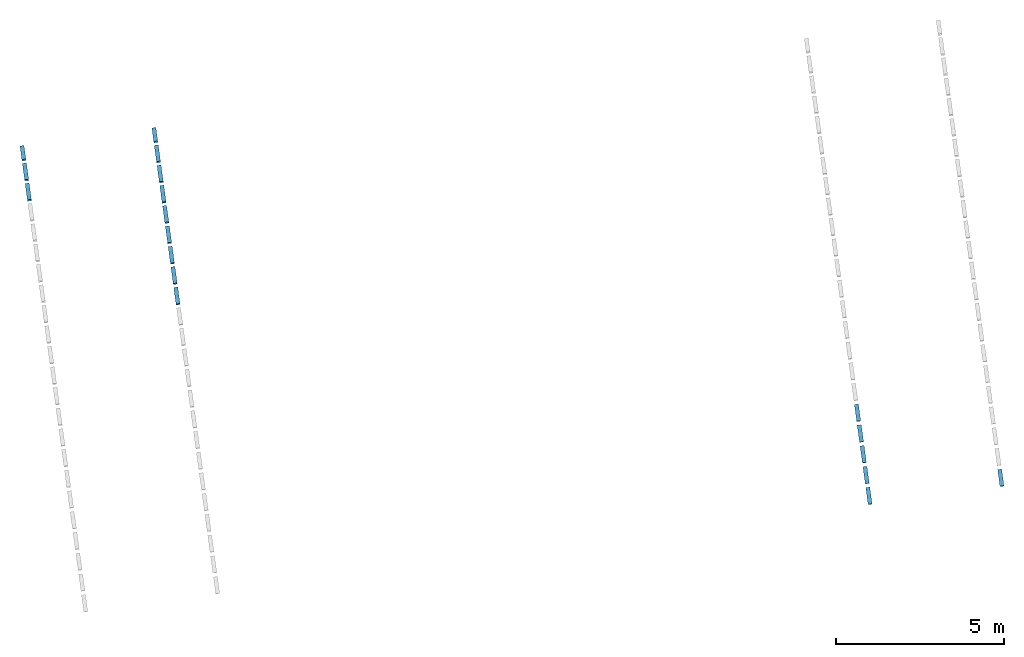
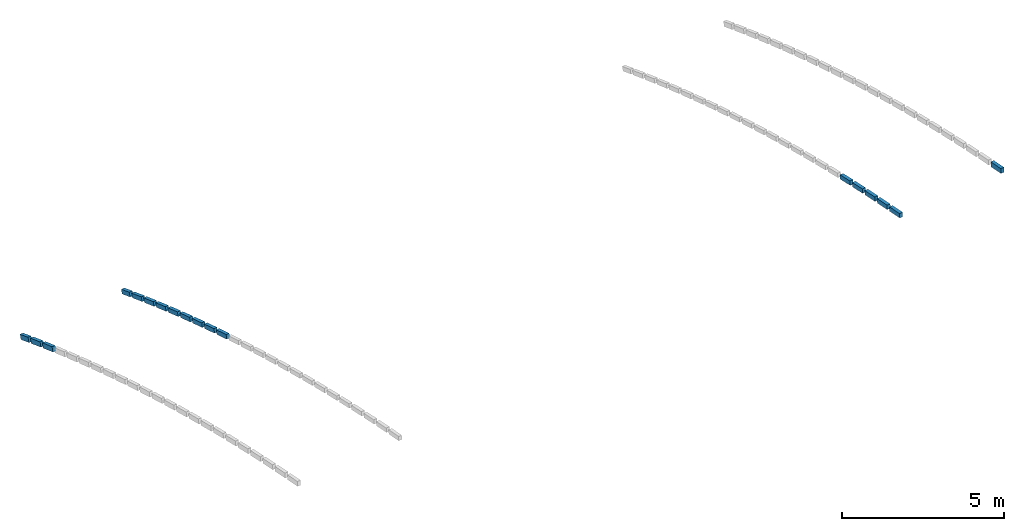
# One storey, part 3 of 6: 18 beams.
"""IFC2X3 building model written with IfcOpenShell, lengths in metres."""

from ifc_helpers import new_model, entity, si_unit, converted_unit, derived_unit, money_unit, direction, frame, frame_2d, origin_with_axes, place, context, subcontext, project, spatial, rectangle, extrude, boolean, faceted_brep, material, type_object, element, save


model = new_model("IFC2X3")

# Units and contexts
model_context = context("Model", 3, precision=1e-05, world=origin_with_axes(), true_north=direction((0.0, 1.0)))
body_context = subcontext(model_context, "Body", "Model", "MODEL_VIEW")
ifc_project = project(units=[si_unit("LENGTHUNIT", "METRE"), si_unit("AREAUNIT", "SQUARE_METRE"), si_unit("VOLUMEUNIT", "CUBIC_METRE"), converted_unit("PLANEANGLEUNIT", "DEGREE", entity("IfcPlaneAngleMeasure", 0.0174532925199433), si_unit("PLANEANGLEUNIT", "RADIAN"), dimensions=[0, 0, 0, 0, 0, 0, 0]), money_unit("EUR"), converted_unit("TIMEUNIT", "Year", entity("IfcTimeMeasure", 31557600.0), si_unit("TIMEUNIT", "SECOND"), dimensions=[0, 0, 1, 0, 0, 0, 0]), si_unit("MASSUNIT", "GRAM", prefix="KILO"), si_unit("THERMODYNAMICTEMPERATUREUNIT", "DEGREE_CELSIUS"), si_unit("LUMINOUSINTENSITYUNIT", "LUMEN"), si_unit("ENERGYUNIT", "JOULE", prefix="MEGA"), derived_unit("THERMALCONDUCTANCEUNIT", [(si_unit("POWERUNIT", "WATT"), 1), (si_unit("LENGTHUNIT", "METRE"), -1), (si_unit("THERMODYNAMICTEMPERATUREUNIT", "KELVIN"), -1)]), derived_unit("SPECIFICHEATCAPACITYUNIT", [(si_unit("ENERGYUNIT", "JOULE"), 1), (si_unit("MASSUNIT", "GRAM", prefix="KILO"), -1), (si_unit("THERMODYNAMICTEMPERATUREUNIT", "KELVIN"), -1)]), derived_unit("MASSDENSITYUNIT", [(si_unit("MASSUNIT", "GRAM", prefix="KILO"), 1), (si_unit("VOLUMEUNIT", "CUBIC_METRE"), -1)])], contexts=[model_context])

# Site, building, storey
site_placement = place(None, origin_with_axes())
site = spatial("IfcSite", under=ifc_project, at=site_placement, Name="Gelände", CompositionType="ELEMENT")
building_placement = place(site_placement, origin_with_axes())
building = spatial("IfcBuilding", under=site, at=building_placement, Name="Gebäude", CompositionType="ELEMENT")
storey_placement = place(building_placement, frame((0.0, 0.0, 9.9), z_axis=(0.0, 0.0, 1.0), x_axis=(1.0, 0.0, 0.0)))
storey = spatial("IfcBuildingStorey", under=building, at=storey_placement, Name="Dach", CompositionType="ELEMENT", Elevation=9.9)

# Beams
ifc_material = material(Name="Bauholz")
beam_type_1 = type_object("IfcBeamType", Name="Bauholz 120 x 160", PredefinedType="NOTDEFINED")
beam_1_placement = place(storey_placement, frame((89.07821815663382, -140.4611942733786, -0.6449889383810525), z_axis=(0.0, 0.0, 1.0), x_axis=(-0.9907490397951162, -0.1357068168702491, 0.0)))
element("IfcBeam", 1, at=beam_1_placement, inside=storey, type_object=beam_type_1, material=ifc_material, Name="Unterzug-031", context=body_context, shape_type="CSG", body=[
    boolean("DIFFERENCE", boolean("DIFFERENCE", extrude(rectangle(XDim=0.16, YDim=0.12, at=frame_2d((-0.08, 0.0), x_axis=(1.0, 0.0))), frame((0.0, 0.0, 0.0), z_axis=(0.0, 0.9809235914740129, 0.1943936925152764), x_axis=(0.0, -0.1943936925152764, 0.9809235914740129)), (0.0, 0.0, 1.0), 0.5052407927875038), faceted_brep([(-0.06000000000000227, 0.0, 0.0), (-0.06000000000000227, 0.03190226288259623, -0.1567893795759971), (-0.06000000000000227, 0.03110299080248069, -0.156947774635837), (0.06000000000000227, 0.03190226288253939, -0.1567893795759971), (0.06000000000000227, 0.0, 0.0), (0.06000000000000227, 0.03110299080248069, -0.156947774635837)], [[[0, 1, 2]], [[3, 1, 0, 4]], [[1, 3, 5, 2]], [[4, 0, 2, 5]], [[3, 4, 5]]])), faceted_brep([(0.05999999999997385, 0.5265737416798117, -0.05875828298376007), (-0.0600000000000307, 0.5265737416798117, -0.05875828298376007), (-0.06000000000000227, 0.5267056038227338, -0.0587321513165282), (0.06000000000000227, 0.5267056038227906, -0.0587321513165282), (-0.06000000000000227, 0.4956026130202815, 0.09821562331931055), (0.06000000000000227, 0.4956026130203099, 0.09821562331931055)], [[[0, 1, 2, 3]], [[4, 1, 0, 5]], [[1, 4, 2]], [[4, 5, 3, 2]], [[5, 0, 3]]])),
])
beam_2_placement = place(storey_placement, frame((89.16146479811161, -141.0689295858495, -0.5239403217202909), z_axis=(0.0, 0.0, 1.0), x_axis=(-0.9907490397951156, -0.1357068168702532, 0.0)))
element("IfcBeam", 2, at=beam_2_placement, inside=storey, type_object=beam_type_1, material=ifc_material, Name="Unterzug-031", context=body_context, shape_type="CSG", body=[
    boolean("DIFFERENCE", boolean("DIFFERENCE", extrude(rectangle(XDim=0.16, YDim=0.12, at=frame_2d((-0.08, 0.0), x_axis=(1.0, 0.0))), frame((0.0, 0.0, 0.0), z_axis=(0.0, 0.9827683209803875, 0.1848416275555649), x_axis=(0.0, -0.1848416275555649, 0.9827683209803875)), (0.0, 0.0, 1.0), 0.5052407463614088), faceted_brep([(-0.06000000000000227, 0.0, 0.0), (-0.06000000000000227, 0.03037543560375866, -0.1570923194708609), (-0.06000000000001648, 0.02957466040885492, -0.1572429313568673), (0.05999999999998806, 0.03037543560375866, -0.1570923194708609), (0.06000000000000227, 0.0, 0.0), (0.05999999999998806, 0.02957466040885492, -0.1572429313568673)], [[[0, 1, 2]], [[3, 1, 0, 4]], [[1, 3, 5, 2]], [[4, 0, 2, 5]], [[3, 4, 5]]])), faceted_brep([(0.06000000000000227, 0.5259771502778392, -0.06387825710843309), (-0.05999999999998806, 0.5259771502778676, -0.06387825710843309), (-0.06000000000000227, 0.5261092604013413, -0.06385340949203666), (0.05999999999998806, 0.5261092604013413, -0.06385340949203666), (-0.0600000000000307, 0.496534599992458, 0.09338952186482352), (0.06000000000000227, 0.4965345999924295, 0.09338952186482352)], [[[0, 1, 2, 3]], [[4, 1, 0, 5]], [[1, 4, 2]], [[4, 5, 3, 2]], [[5, 0, 3]]])),
])
beam_3_placement = place(storey_placement, frame((88.99514760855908, -139.8547445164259, -0.772435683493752), z_axis=(0.0, 0.0, 1.0), x_axis=(-0.9907490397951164, -0.1357068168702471, 0.0)))
element("IfcBeam", 3, at=beam_3_placement, inside=storey, type_object=beam_type_1, material=ifc_material, Name="Unterzug-031", context=body_context, shape_type="CSG", body=[
    boolean("DIFFERENCE", boolean("DIFFERENCE", extrude(rectangle(XDim=0.16, YDim=0.12, at=frame_2d((-0.08, 0.0), x_axis=(1.0, 0.0))), frame((0.0, 0.0, 0.0), z_axis=(0.0, 0.9788473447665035, 0.204591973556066), x_axis=(0.0, -0.204591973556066, 0.9788473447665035)), (0.0, 0.0, 1.0), 0.50524049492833), faceted_brep([(-0.06000000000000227, 0.0, 0.0), (-0.06000000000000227, 0.03353229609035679, -0.1564488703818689), (-0.06000000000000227, 0.03273471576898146, -0.1566155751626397), (0.06000000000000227, 0.03353229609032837, -0.1564488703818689), (0.06000000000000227, 0.0, 0.0), (0.06000000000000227, 0.03273471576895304, -0.1566155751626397)], [[[0, 1, 2]], [[3, 1, 0, 4]], [[1, 3, 5, 2]], [[4, 0, 2, 5]], [[3, 4, 5]]])), faceted_brep([(0.0600000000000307, 0.5271564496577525, -0.05327492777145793), (-0.05999999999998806, 0.5271564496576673, -0.05327492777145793), (-0.05999999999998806, 0.5272880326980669, -0.05324742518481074), (0.06000000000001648, 0.5272880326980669, -0.05324742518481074), (-0.06000000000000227, 0.4945533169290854, 0.1033681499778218), (0.06000000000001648, 0.494553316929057, 0.1033681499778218)], [[[0, 1, 2, 3]], [[4, 1, 0, 5]], [[1, 4, 2]], [[4, 5, 3, 2]], [[5, 0, 3]]])),
])
beam_4_placement = place(storey_placement, frame((88.91225356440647, -139.2495833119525, -0.9059747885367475), z_axis=(0.0, 0.0, 1.0), x_axis=(-0.9907490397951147, -0.1357068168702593, 0.0)))
element("IfcBeam", 4, at=beam_4_placement, inside=storey, type_object=beam_type_1, material=ifc_material, Name="Unterzug-031", context=body_context, shape_type="CSG", body=[
    boolean("DIFFERENCE", boolean("DIFFERENCE", extrude(rectangle(XDim=0.16, YDim=0.12, at=frame_2d((-0.08, 0.0), x_axis=(1.0, 0.0))), frame((0.0, 0.0, 0.0), z_axis=(0.0, 0.9767919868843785, 0.2141901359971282), x_axis=(0.0, -0.2141901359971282, 0.9767919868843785)), (0.0, 0.0, 1.0), 0.5052398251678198), faceted_brep([(-0.05999999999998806, 0.0, 0.0), (-0.05999999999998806, 0.03506632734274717, -0.1561121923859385), (-0.06000000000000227, 0.03427042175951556, -0.1562867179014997), (0.06000000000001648, 0.03506632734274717, -0.1561121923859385), (0.06000000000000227, 0.0, 0.0), (0.06000000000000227, 0.03427042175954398, -0.1562867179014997)], [[[0, 1, 2]], [[3, 1, 0, 4]], [[1, 3, 5, 2]], [[4, 0, 2, 5]], [[3, 4, 5]]])), faceted_brep([(0.06000000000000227, 0.5276533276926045, -0.04809812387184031), (-0.05999999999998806, 0.5276533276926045, -0.04809812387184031), (-0.05999999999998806, 0.5277846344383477, -0.04806933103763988), (0.06000000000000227, 0.5277846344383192, -0.04806933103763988), (-0.05999999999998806, 0.4935142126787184, 0.1082173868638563), (0.05999999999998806, 0.4935142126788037, 0.1082173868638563)], [[[0, 1, 2, 3]], [[4, 1, 0, 5]], [[1, 4, 2]], [[4, 5, 3, 2]], [[5, 0, 3]]])),
])
beam_5_placement = place(storey_placement, frame((88.82954721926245, -138.6457923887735, -1.045690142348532), z_axis=(0.0, 0.0, 1.0), x_axis=(-0.9907490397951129, -0.1357068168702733, 0.0)))
element("IfcBeam", 5, at=beam_5_placement, inside=storey, type_object=beam_type_1, material=ifc_material, Name="Unterzug-031", context=body_context, shape_type="CSG", body=[
    boolean("DIFFERENCE", boolean("DIFFERENCE", extrude(rectangle(XDim=0.16, YDim=0.12, at=frame_2d((-0.08, 0.0), x_axis=(1.0, 0.0))), frame((0.0, 0.0, 0.0), z_axis=(0.0, 0.974598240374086, 0.2239604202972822), x_axis=(0.0, -0.2239604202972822, 0.974598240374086)), (0.0, 0.0, 1.0), 0.5052396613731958), faceted_brep([(-0.06000000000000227, 0.0, 0.0), (-0.05999999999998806, 0.03662778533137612, -0.1557532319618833), (-0.06000000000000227, 0.03583366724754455, -0.1559357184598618), (0.06000000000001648, 0.03662778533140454, -0.1557532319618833), (0.06000000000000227, 0.0, 0.0), (0.06000000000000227, 0.03583366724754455, -0.1559357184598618)], [[[0, 1, 2]], [[3, 1, 0, 4]], [[1, 3, 5, 2]], [[4, 0, 2, 5]], [[3, 4, 5]]])), faceted_brep([(0.06000000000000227, 0.528108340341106, -0.04281213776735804), (-0.06000000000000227, 0.5281083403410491, -0.04281213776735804), (-0.05999999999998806, 0.5282393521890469, -0.04278203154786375), (0.06000000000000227, 0.5282393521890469, -0.04278203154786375), (-0.06000000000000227, 0.4924056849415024, 0.1131536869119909), (0.06000000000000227, 0.4924056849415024, 0.1131536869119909)], [[[0, 1, 2, 3]], [[4, 1, 0, 5]], [[1, 4, 2]], [[4, 5, 3, 2]], [[5, 0, 3]]])),
])
beam_6_placement = place(storey_placement, frame((88.51197655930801, -136.3273937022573, -1.643677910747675), z_axis=(0.0, 0.0, 1.0), x_axis=(-0.9907490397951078, -0.1357068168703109, 0.0)))
element("IfcBeam", 6, at=beam_6_placement, inside=storey, type_object=beam_type_1, material=ifc_material, Name="Unterzug-031", context=body_context, shape_type="CSG", body=[
    boolean("DIFFERENCE", boolean("DIFFERENCE", extrude(rectangle(XDim=0.16, YDim=0.12, at=frame_2d((-0.08, 0.0), x_axis=(1.0, 0.0))), frame((0.0, 0.0, 0.0), z_axis=(0.0, 0.9647542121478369, 0.2631526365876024), x_axis=(0.0, -0.2631526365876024, 0.9647542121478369)), (0.0, 0.0, 1.0), 0.4197847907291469), faceted_brep([(-0.05999999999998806, 0.0, 0.0), (-0.05999999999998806, 0.04345150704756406, -0.153993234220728), (-0.06000000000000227, 0.0421044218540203, -0.1543606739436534), (0.06000000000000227, 0.04345150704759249, -0.153993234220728), (0.06000000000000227, 0.0, 0.0), (0.06000000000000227, 0.0421044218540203, -0.1543606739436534)], [[[0, 1, 2]], [[3, 1, 0, 4]], [[1, 3, 5, 2]], [[4, 0, 2, 5]], [[3, 4, 5]]])), faceted_brep([(0.06000000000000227, 0.4470742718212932, -0.04389846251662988), (-0.06000000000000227, 0.4470742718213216, -0.04389846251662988), (-0.06000000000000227, 0.4470935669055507, -0.0438931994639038), (0.06000000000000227, 0.4470935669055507, -0.0438931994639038), (-0.05999999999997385, 0.4048883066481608, 0.1104399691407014), (0.06000000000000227, 0.4048883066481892, 0.1104399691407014), (-0.06000000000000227, 0.4049891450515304, 0.1104674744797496), (0.06000000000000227, 0.4049891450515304, 0.1104674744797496)], [[[0, 1, 2, 3]], [[4, 1, 0, 5]], [[1, 4, 6, 2]], [[7, 3, 2, 6]], [[5, 0, 3, 7]], [[4, 5, 7, 6]]])),
])
beam_7_placement = place(storey_placement, frame((88.66473150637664, -137.4425687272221, -1.343591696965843), z_axis=(0.0, 0.0, 1.0), x_axis=(-0.9907490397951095, -0.1357068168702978, 0.0)))
element("IfcBeam", 7, at=beam_7_placement, inside=storey, type_object=beam_type_1, material=ifc_material, Name="Unterzug-031", context=body_context, shape_type="CSG", body=[
    boolean("DIFFERENCE", boolean("DIFFERENCE", extrude(rectangle(XDim=0.16, YDim=0.12, at=frame_2d((-0.08, 0.0), x_axis=(1.0, 0.0))), frame((0.0, 0.0, 0.0), z_axis=(0.0, 0.9699179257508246, 0.2434321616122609), x_axis=(0.0, -0.2434321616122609, 0.9699179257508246)), (0.0, 0.0, 1.0), 0.5053439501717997), faceted_brep([(-0.05999999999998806, 0.0, 0.0), (-0.06000000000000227, 0.04030344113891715, -0.1548469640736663), (-0.06000000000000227, 0.0389491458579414, -0.1551868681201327), (0.06000000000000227, 0.04030344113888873, -0.1548469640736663), (0.06000000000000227, 0.0, 0.0), (0.06000000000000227, 0.03894914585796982, -0.1551868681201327)], [[[0, 1, 2]], [[3, 1, 0, 4]], [[1, 3, 5, 2]], [[4, 0, 2, 5]], [[3, 4, 5]]])), faceted_brep([(0.06000000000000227, 0.5290719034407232, -0.03217476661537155), (-0.06000000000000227, 0.5290719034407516, -0.03217476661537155), (-0.05999999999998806, 0.5290913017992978, -0.03216989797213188), (0.06000000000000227, 0.5290913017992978, -0.03216989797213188), (-0.06000000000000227, 0.4900407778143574, 0.1229915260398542), (0.06000000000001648, 0.490040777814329, 0.1229915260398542), (-0.05999999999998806, 0.4901421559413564, 0.1230169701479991), (0.06000000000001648, 0.4901421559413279, 0.1230169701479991)], [[[0, 1, 2, 3]], [[4, 1, 0, 5]], [[1, 4, 6, 2]], [[7, 3, 2, 6]], [[5, 0, 3, 7]], [[4, 5, 7, 6]]])),
])
beam_8_placement = place(storey_placement, frame((88.74703704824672, -138.0434336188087, -1.191567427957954), z_axis=(0.0, 0.0, 1.0), x_axis=(-0.9907490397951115, -0.1357068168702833, 0.0)))
element("IfcBeam", 8, at=beam_8_placement, inside=storey, type_object=beam_type_1, material=ifc_material, Name="Unterzug-031", context=body_context, shape_type="CSG", body=[
    boolean("DIFFERENCE", boolean("DIFFERENCE", extrude(rectangle(XDim=0.16, YDim=0.12, at=frame_2d((-0.08, 0.0), x_axis=(1.0, 0.0))), frame((0.0, 0.0, 0.0), z_axis=(0.0, 0.9723068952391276, 0.2337077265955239), x_axis=(0.0, -0.2337077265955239, 0.9723068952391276)), (0.0, 0.0, 1.0), 0.5052395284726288), faceted_brep([(-0.06000000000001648, 0.0, 0.0), (-0.06000000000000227, 0.03863559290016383, -0.1552704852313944), (-0.06000000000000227, 0.03739323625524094, -0.1555691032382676), (0.06000000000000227, 0.03863559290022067, -0.1552704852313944), (0.06000000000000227, 0.0, 0.0), (0.06000000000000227, 0.03739323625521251, -0.1555691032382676)], [[[0, 1, 2]], [[3, 1, 0, 4]], [[1, 3, 5, 2]], [[4, 0, 2, 5]], [[3, 4, 5]]])), faceted_brep([(0.05999999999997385, 0.5285104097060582, -0.03752213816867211), (-0.06000000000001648, 0.5285104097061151, -0.03752213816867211), (-0.06000000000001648, 0.528641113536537, -0.03749072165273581), (0.05999999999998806, 0.528641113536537, -0.03749072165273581), (-0.0600000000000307, 0.4912478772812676, 0.11807838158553), (0.05999999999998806, 0.4912478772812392, 0.11807838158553)], [[[0, 1, 2, 3]], [[4, 1, 0, 5]], [[1, 4, 2]], [[4, 5, 3, 2]], [[5, 0, 3]]])),
])
beam_9_placement = place(storey_placement, frame((88.58263902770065, -136.8432592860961, -1.501747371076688), z_axis=(0.0, 0.0, 1.0), x_axis=(-0.9907490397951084, -0.1357068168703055, 0.0)))
element("IfcBeam", 9, at=beam_9_placement, inside=storey, type_object=beam_type_1, material=ifc_material, Name="Unterzug-031", context=body_context, shape_type="CSG", body=[
    boolean("DIFFERENCE", boolean("DIFFERENCE", extrude(rectangle(XDim=0.16, YDim=0.12, at=frame_2d((-0.08, 0.0), x_axis=(1.0, 0.0))), frame((0.0, 0.0, 0.0), z_axis=(0.0, 0.9674364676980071, 0.2531139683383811), x_axis=(0.0, -0.2531139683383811, 0.9674364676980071)), (0.0, 0.0, 1.0), 0.5053438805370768), faceted_brep([(-0.06000000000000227, 0.0, 0.0), (-0.0600000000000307, 0.04184906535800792, -0.1544364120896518), (-0.06000000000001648, 0.04049823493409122, -0.1547898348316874), (0.05999999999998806, 0.04184906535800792, -0.1544364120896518), (0.05999999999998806, 0.0, 0.0), (0.05999999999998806, 0.04049823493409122, -0.1547898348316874)], [[[0, 1, 2]], [[3, 1, 0, 4]], [[1, 3, 5, 2]], [[4, 0, 2, 5]], [[3, 4, 5]]])), faceted_brep([(0.05999999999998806, 0.5293669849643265, -0.02688530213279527), (-0.06000000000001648, 0.5293669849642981, -0.02688530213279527), (-0.05999999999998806, 0.5293863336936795, -0.02688023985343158), (0.05999999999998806, 0.5293863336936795, -0.02688023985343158), (-0.06000000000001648, 0.488786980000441, 0.1278831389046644), (0.05999999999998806, 0.4887869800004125, 0.1278831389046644), (-0.06000000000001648, 0.4888880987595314, 0.1279095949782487), (0.05999999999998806, 0.4888880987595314, 0.1279095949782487)], [[[0, 1, 2, 3]], [[4, 1, 0, 5]], [[1, 4, 6, 2]], [[7, 3, 2, 6]], [[5, 0, 3, 7]], [[4, 5, 7, 6]]])),
])
beam_10_placement = place(storey_placement, frame((109.3917689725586, -144.5447945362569, 0.3440173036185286), z_axis=(0.0, 0.0, 1.0), x_axis=(-0.9907490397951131, -0.1357068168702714, 0.0)))
element("IfcBeam", 10, at=beam_10_placement, inside=storey, type_object=beam_type_1, material=ifc_material, Name="Unterzug-031", context=body_context, shape_type="CSG", body=[
    boolean("DIFFERENCE", boolean("DIFFERENCE", extrude(rectangle(XDim=0.16, YDim=0.12, at=frame_2d((-0.08, 0.0), x_axis=(1.0, 0.0))), frame((0.0, 0.0, 0.0), z_axis=(0.0, 0.9964393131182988, 0.08431307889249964), x_axis=(0.0, -0.08431307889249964, 0.9964393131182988)), (0.0, 0.0, 1.0), 0.5052448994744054), faceted_brep([(-0.05999999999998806, 0.0, 0.0), (-0.06000000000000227, 0.01392273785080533, -0.1593936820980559), (-0.05999999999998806, 0.01349009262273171, -0.1594302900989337), (0.06000000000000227, 0.0139227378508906, -0.1593936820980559), (0.06000000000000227, 0.0, 0.0), (0.06000000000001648, 0.01349009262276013, -0.1594302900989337)], [[[0, 1, 2]], [[3, 1, 0, 4]], [[1, 3, 5, 2]], [[4, 0, 2, 5]], [[3, 4, 5]]])), faceted_brep([(0.06000000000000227, 0.516802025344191, -0.1168428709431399), (-0.05999999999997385, 0.5168020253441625, -0.1168428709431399), (-0.05999999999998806, 0.5169359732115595, -0.1168315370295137), (0.06000000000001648, 0.5169359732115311, -0.1168315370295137), (-0.05999999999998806, 0.5034458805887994, 0.04259875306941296), (0.0600000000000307, 0.5034458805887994, 0.04259875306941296)], [[[0, 1, 2, 3]], [[4, 1, 0, 5]], [[1, 4, 2]], [[4, 5, 3, 2]], [[5, 0, 3]]])),
])
beam_11_placement = place(storey_placement, frame((109.5609485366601, -145.7798761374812, 0.4421023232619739), z_axis=(0.0, 0.0, 1.0), x_axis=(-0.9907490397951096, -0.1357068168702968, 0.0)))
element("IfcBeam", 11, at=beam_11_placement, inside=storey, type_object=beam_type_1, material=ifc_material, Name="Unterzug-031", context=body_context, shape_type="CSG", body=[
    boolean("DIFFERENCE", boolean("DIFFERENCE", extrude(rectangle(XDim=0.16, YDim=0.12, at=frame_2d((-0.08, 0.0), x_axis=(1.0, 0.0))), frame((0.0, 0.0, 0.0), z_axis=(0.0, 0.9979156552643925, 0.06453173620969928), x_axis=(0.0, -0.06453173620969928, 0.9979156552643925)), (0.0, 0.0, 1.0), 0.5052416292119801), faceted_brep([(-0.05999999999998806, 0.0, 0.0), (-0.05999999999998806, 0.01075836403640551, -0.1596384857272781), (-0.05999999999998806, 0.01032507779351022, -0.1596665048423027), (0.05999999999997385, 0.01075836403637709, -0.1596384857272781), (0.05999999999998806, 0.0, 0.0), (0.06000000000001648, 0.01032507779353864, -0.1596665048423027)], [[[0, 1, 2]], [[3, 1, 0, 4]], [[1, 3, 5, 2]], [[4, 0, 2, 5]], [[3, 4, 5]]])), faceted_brep([(0.06000000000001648, 0.5143794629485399, -0.1270710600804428), (-0.06000000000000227, 0.5143794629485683, -0.1270710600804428), (-0.06000000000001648, 0.5145136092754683, -0.1270623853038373), (0.05999999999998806, 0.5145136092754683, -0.1270623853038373), (-0.06000000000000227, 0.5041885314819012, 0.03260411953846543), (0.05999999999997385, 0.5041885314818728, 0.03260411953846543)], [[[0, 1, 2, 3]], [[4, 1, 0, 5]], [[1, 4, 2]], [[4, 5, 3, 2]], [[5, 0, 3]]])),
])
beam_12_placement = place(storey_placement, frame((109.6456292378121, -146.3980806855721, 0.4818232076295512), z_axis=(0.0, 0.0, 1.0), x_axis=(-0.9907490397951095, -0.1357068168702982, 0.0)))
element("IfcBeam", 12, at=beam_12_placement, inside=storey, type_object=beam_type_1, material=ifc_material, Name="Unterzug-031", context=body_context, shape_type="CSG", body=[
    boolean("DIFFERENCE", boolean("DIFFERENCE", extrude(rectangle(XDim=0.16, YDim=0.12, at=frame_2d((-0.08, 0.0), x_axis=(1.0, 0.0))), frame((0.0, 0.0, 0.0), z_axis=(0.0, 0.9985369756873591, 0.05407317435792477), x_axis=(0.0, -0.05407317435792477, 0.9985369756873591)), (0.0, 0.0, 1.0), 0.5052407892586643), faceted_brep([(-0.05999999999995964, 0.0, 0.0), (-0.05999999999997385, 0.009085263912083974, -0.1597424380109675), (-0.05999999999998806, 0.008651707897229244, -0.1597659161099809), (0.06000000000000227, 0.00908526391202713, -0.1597424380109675), (0.06000000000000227, 0.0, 0.0), (0.06000000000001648, 0.008651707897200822, -0.1597659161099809)], [[[0, 1, 2]], [[3, 1, 0, 4]], [[1, 3, 5, 2]], [[4, 0, 2, 5]], [[3, 4, 5]]])), faceted_brep([(0.0600000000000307, 0.5130190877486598, -0.1324532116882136), (-0.05999999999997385, 0.5130190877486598, -0.1324532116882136), (-0.05999999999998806, 0.513153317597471, -0.1324459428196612), (0.06000000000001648, 0.5131533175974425, -0.1324459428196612), (-0.05999999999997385, 0.5045016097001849, 0.02731997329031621), (0.0600000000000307, 0.5045016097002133, 0.02731997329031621)], [[[0, 1, 2, 3]], [[4, 1, 0, 5]], [[1, 4, 2]], [[4, 5, 3, 2]], [[5, 0, 3]]])),
])
beam_13_placement = place(storey_placement, frame((109.7303616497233, -147.0166627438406, 0.515005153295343), z_axis=(0.0, 0.0, 1.0), x_axis=(-0.9907490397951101, -0.1357068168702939, 0.0)))
element("IfcBeam", 13, at=beam_13_placement, inside=storey, type_object=beam_type_1, material=ifc_material, Name="Unterzug-031", context=body_context, shape_type="CSG", body=[
    boolean("DIFFERENCE", boolean("DIFFERENCE", extrude(rectangle(XDim=0.16, YDim=0.12, at=frame_2d((-0.08, 0.0), x_axis=(1.0, 0.0))), frame((0.0, 0.0, 0.0), z_axis=(0.0, 0.9990217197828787, 0.04422220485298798), x_axis=(0.0, -0.04422220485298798, 0.9990217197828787)), (0.0, 0.0, 1.0), 0.5052408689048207), faceted_brep([(-0.06000000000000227, 0.0, 0.0), (-0.05999999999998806, 0.007509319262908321, -0.159824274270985), (-0.05999999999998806, 0.007075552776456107, -0.1598434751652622), (0.06000000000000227, 0.007509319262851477, -0.159824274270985), (0.06000000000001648, 0.0, 0.0), (0.06000000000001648, 0.007075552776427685, -0.1598434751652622)], [[[0, 1, 2]], [[3, 1, 0, 4]], [[1, 3, 5, 2]], [[4, 0, 2, 5]], [[3, 4, 5]]])), faceted_brep([(0.06000000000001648, 0.5116878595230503, -0.1375065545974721), (-0.06000000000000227, 0.5116878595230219, -0.1375065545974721), (-0.05999999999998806, 0.5118221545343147, -0.1375006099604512), (0.06000000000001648, 0.5118221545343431, -0.1375006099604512), (-0.05999999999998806, 0.5047466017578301, 0.02234286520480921), (0.06000000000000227, 0.5047466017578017, 0.02234286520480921)], [[[0, 1, 2, 3]], [[4, 1, 0, 5]], [[1, 4, 2]], [[4, 5, 3, 2]], [[5, 0, 3]]])),
])
beam_14_placement = place(storey_placement, frame((109.4763248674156, -145.1620879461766, 0.3962608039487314), z_axis=(0.0, 0.0, 1.0), x_axis=(-0.9907490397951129, -0.1357068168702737, 0.0)))
element("IfcBeam", 14, at=beam_14_placement, inside=storey, type_object=beam_type_1, material=ifc_material, Name="Unterzug-031", context=body_context, shape_type="CSG", body=[
    boolean("DIFFERENCE", boolean("DIFFERENCE", extrude(rectangle(XDim=0.16, YDim=0.12, at=frame_2d((-0.08, 0.0), x_axis=(1.0, 0.0))), frame((0.0, 0.0, 0.0), z_axis=(0.0, 0.9972306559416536, 0.07437081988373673), x_axis=(0.0, -0.07437081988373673, 0.9972306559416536)), (0.0, 0.0, 1.0), 0.5052413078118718), faceted_brep([(-0.06000000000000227, 0.0, 0.0), (-0.06000000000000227, 0.01233232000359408, -0.1595246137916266), (-0.05999999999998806, 0.01189933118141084, -0.1595569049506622), (0.05999999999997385, 0.0123323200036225, -0.1595246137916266), (0.06000000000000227, 0.0, 0.0), (0.06000000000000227, 0.01189933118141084, -0.1595569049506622)], [[[0, 1, 2]], [[3, 1, 0, 4]], [[1, 3, 5, 2]], [[4, 0, 2, 5]], [[3, 4, 5]]])), faceted_brep([(0.06000000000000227, 0.5156073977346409, -0.1219916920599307), (-0.06000000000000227, 0.5156073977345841, -0.1219916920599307), (-0.05999999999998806, 0.5157414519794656, -0.1219816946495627), (0.06000000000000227, 0.5157414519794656, -0.1219816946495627), (-0.06000000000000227, 0.5038421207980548, 0.03757521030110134), (0.06000000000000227, 0.5038421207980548, 0.03757521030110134)], [[[0, 1, 2, 3]], [[4, 1, 0, 5]], [[1, 4, 2]], [[4, 5, 3, 2]], [[5, 0, 3]]])),
])
beam_type_2 = type_object("IfcBeamType", Name="Bauholz 120 x 180", PredefinedType="NOTDEFINED")
beam_15_placement = place(storey_placement, frame((84.60985330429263, -137.4351193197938, -1.675438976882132), z_axis=(0.0, 0.0, 1.0), x_axis=(-0.9907490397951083, -0.135706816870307, 0.0)))
element("IfcBeam", 15, at=beam_15_placement, inside=storey, type_object=beam_type_2, material=ifc_material, Name="Unterzug-031", context=body_context, shape_type="CSG", body=[
    boolean("DIFFERENCE", boolean("DIFFERENCE", extrude(rectangle(XDim=0.18, YDim=0.12, at=frame_2d((0.09, -0.06), x_axis=(1.0, 0.0))), frame((0.0, -0.001539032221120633, -0.0004026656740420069), z_axis=(0.0, 0.9674360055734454, 0.2531157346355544), x_axis=(0.0, -0.2531157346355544, 0.9674360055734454)), (0.0, 0.0, 1.0), 0.5051027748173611), faceted_brep([(-0.120000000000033, -0.04708051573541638, 0.1737408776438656), (-0.120000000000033, 0.0, 0.0), (-0.1200000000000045, -0.00153903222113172, -0.000402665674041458), (-0.1200000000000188, -0.04709986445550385, 0.173735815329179), (0.0, 0.0, 0.0), (0.0, -0.04708051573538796, 0.1737408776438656), (0.0, -0.001539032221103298, -0.000402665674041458), (0.0, -0.04709986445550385, 0.173735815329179)], [[[0, 1, 2, 3]], [[4, 1, 0, 5]], [[1, 4, 6, 2]], [[2, 6, 7, 3]], [[5, 0, 3, 7]], [[4, 5, 7, 6]]])), faceted_brep([(0.0, 0.4869442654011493, 0.1274019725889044), (-0.120000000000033, 0.4869442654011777, 0.1274019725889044), (-0.1200000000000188, 0.487115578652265, 0.1274467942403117), (0.0, 0.487115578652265, 0.1274467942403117), (-0.120000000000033, 0.4415353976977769, 0.3015802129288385), (0.0, 0.4415353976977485, 0.3015802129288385), (-0.1200000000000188, 0.441554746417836, 0.3015852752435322), (0.0, 0.4415547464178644, 0.3015852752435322)], [[[0, 1, 2, 3]], [[4, 1, 0, 5]], [[1, 4, 6, 2]], [[7, 3, 2, 6]], [[5, 0, 3, 7]], [[4, 5, 7, 6]]])),
])
beam_16_placement = place(storey_placement, frame((84.69169602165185, -138.0326053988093, -1.517773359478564), z_axis=(0.0, 0.0, 1.0), x_axis=(-0.9907490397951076, -0.1357068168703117, 0.0)))
element("IfcBeam", 16, at=beam_16_placement, inside=storey, type_object=beam_type_2, material=ifc_material, Name="Unterzug-031", context=body_context, shape_type="CSG", body=[
    boolean("DIFFERENCE", boolean("DIFFERENCE", extrude(rectangle(XDim=0.18, YDim=0.12, at=frame_2d((0.09, -0.06), x_axis=(1.0, 0.0))), frame((0.0, -0.001542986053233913, -0.0003872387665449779), z_axis=(0.0, 0.9699213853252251, 0.2434183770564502), x_axis=(0.0, -0.2434183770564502, 0.9699213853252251)), (0.0, 0.0, 1.0), 0.5051019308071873), faceted_brep([(-0.1199999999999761, -0.04533889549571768, 0.174203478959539), (-0.1200000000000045, 0.0, 0.0), (-0.1200000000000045, -0.001542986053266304, -0.000387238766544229), (-0.1199999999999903, -0.04535829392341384, 0.174198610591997), (0.0, 0.0, 0.0), (0.0, -0.0453388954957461, 0.174203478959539), (0.0, -0.001542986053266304, -0.000387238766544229), (0.0, -0.04535829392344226, 0.174198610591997)], [[[0, 1, 2, 3]], [[4, 1, 0, 5]], [[1, 4, 6, 2]], [[2, 6, 7, 3]], [[5, 0, 3, 7]], [[4, 5, 7, 6]]])), faceted_brep([(0.0, 0.4881944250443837, 0.1225207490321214), (-0.1200000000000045, 0.4881944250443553, 0.1225207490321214), (-0.1200000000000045, 0.4883661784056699, 0.1225638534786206), (0.0, 0.4883661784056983, 0.1225638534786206), (-0.1200000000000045, 0.4445314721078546, 0.2971448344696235), (0.0, 0.4445314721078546, 0.2971448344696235), (-0.1200000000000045, 0.4445508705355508, 0.2971497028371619), (0.0, 0.4445508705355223, 0.2971497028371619)], [[[0, 1, 2, 3]], [[4, 1, 0, 5]], [[1, 4, 6, 2]], [[7, 3, 2, 6]], [[5, 0, 3, 7]], [[4, 5, 7, 6]]])),
])
beam_17_placement = place(storey_placement, frame((113.7105037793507, -146.4803441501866, 0.3352200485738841), z_axis=(0.0, 0.0, 1.0), x_axis=(-0.9907490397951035, -0.1357068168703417, 0.0)))
element("IfcBeam", 17, at=beam_17_placement, inside=storey, type_object=beam_type_2, material=ifc_material, Name="Unterzug-031", context=body_context, shape_type="CSG", body=[
    boolean("DIFFERENCE", boolean("DIFFERENCE", extrude(rectangle(XDim=0.18, YDim=0.12, at=frame_2d((0.09, 0.06), x_axis=(1.0, 0.0))), frame((0.0, -0.0006476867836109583, -2.867152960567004e-05), z_axis=(0.0, 0.9990216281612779, 0.04422427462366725), x_axis=(0.0, -0.04422427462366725, 0.9990216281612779)), (0.0, 0.0, 1.0), 0.5049981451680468), faceted_brep([(0.0, -0.008588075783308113, 0.1797961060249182), (0.0, 0.0, 0.0), (0.0, -0.0006476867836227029, -2.867152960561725e-05), (0.0, -0.008608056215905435, 0.1797952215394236), (0.1200000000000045, 0.0, 0.0), (0.1200000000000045, -0.008588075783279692, 0.1797961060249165), (0.1199999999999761, -0.0006476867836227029, -2.867152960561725e-05), (0.1199999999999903, -0.008608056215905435, 0.1797952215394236)], [[[0, 1, 2, 3]], [[4, 1, 0, 5]], [[1, 4, 6, 2]], [[2, 6, 7, 3]], [[5, 0, 3, 7]], [[4, 5, 7, 6]]])), faceted_brep([(0.1199999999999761, 0.5028948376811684, 0.02226193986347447), (0.0, 0.50289483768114, 0.02226193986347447), (0.0, 0.5038563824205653, 0.02230450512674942), (0.1199999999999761, 0.5038563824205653, 0.02230450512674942), (0.0, 0.4958760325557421, 0.2021275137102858), (0.1200000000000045, 0.4958760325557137, 0.2021275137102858), (0.0, 0.4958960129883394, 0.2021283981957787), (0.1199999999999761, 0.495896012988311, 0.2021283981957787)], [[[0, 1, 2, 3]], [[4, 1, 0, 5]], [[1, 4, 6, 2]], [[7, 3, 2, 6]], [[5, 0, 3, 7]], [[4, 5, 7, 6]]])),
])
beam_18_placement = place(storey_placement, frame((84.53961071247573, -136.9223190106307, -1.816464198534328), z_axis=(0.0, 0.0, 1.0), x_axis=(-0.9907490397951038, -0.13570681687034, 0.0)))
element("IfcBeam", 18, at=beam_18_placement, inside=storey, type_object=beam_type_2, material=ifc_material, Name="Unterzug-031", context=body_context, shape_type="CSG", body=[
    boolean("DIFFERENCE", boolean("DIFFERENCE", extrude(rectangle(XDim=0.18, YDim=0.12, at=frame_2d((0.09, -0.06), x_axis=(1.0, 0.0))), frame((0.0, -0.002754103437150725, -0.0007508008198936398), z_axis=(0.0, 0.9647921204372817, 0.2630136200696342), x_axis=(0.0, -0.2630136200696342, 0.9647921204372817)), (0.0, 0.0, 1.0), 0.4194318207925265), faceted_brep([(-0.1200000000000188, -0.05007725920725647, 0.1729170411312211), (-0.1200000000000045, 0.0, 0.0), (-0.1200000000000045, -0.002754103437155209, -0.000750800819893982), (-0.1200000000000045, -0.05009655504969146, 0.1729117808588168), (0.0, 0.0, 0.0), (0.0, -0.05007725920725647, 0.1729170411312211), (0.0, -0.002754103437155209, -0.000750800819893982), (0.0, -0.05009655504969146, 0.1729117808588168)], [[[0, 1, 2, 3]], [[4, 1, 0, 5]], [[1, 4, 6, 2]], [[2, 6, 7, 3]], [[5, 0, 3, 7]], [[4, 5, 7, 6]]])), faceted_brep([(0.0, 0.4017973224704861, 0.1095346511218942), (-0.1200000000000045, 0.4017973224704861, 0.1095346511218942), (-0.1200000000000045, 0.4019104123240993, 0.1095654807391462), (0.0, 0.4019104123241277, 0.1095654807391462), (-0.1200000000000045, 0.3545486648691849, 0.2832228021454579), (0.0, 0.3545486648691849, 0.2832228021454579), (-0.1200000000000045, 0.3545679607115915, 0.2832280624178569), (0.0, 0.3545679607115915, 0.2832280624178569)], [[[0, 1, 2, 3]], [[4, 1, 0, 5]], [[1, 4, 6, 2]], [[7, 3, 2, 6]], [[5, 0, 3, 7]], [[4, 5, 7, 6]]])),
])

save(model, "model.ifc")
